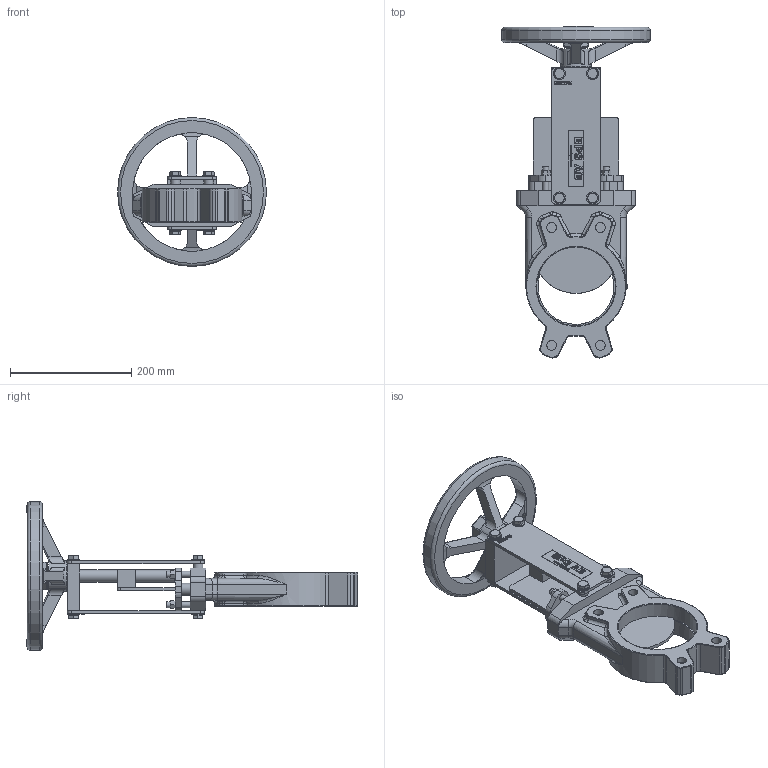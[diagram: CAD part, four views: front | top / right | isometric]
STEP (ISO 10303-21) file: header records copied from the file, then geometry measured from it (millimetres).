
FILE_DESCRIPTION((''),'2;1');
FILE_NAME('Z:\Kunder\BPS\BPS Produkter\BPS 2015\DN 125\Ritningar\BPS 2015125.stp','2012-12-28T10:56:32',('James'),(''),'Autodesk Inventor 2013','Autodesk Inventor 2013','');
FILE_SCHEMA(('AUTOMOTIVE_DESIGN { 1 2 10303 214 0 1 1 1 }'));
Length unit declared in the file: millimetre
Products named in the file (2): BPS 2015125 (SubstituteLevelofDetail1); BPS 2015125
Assembly tree (1 placements, depth 2):
  BPS 2015125 (SubstituteLevelofDetail1)
    BPS 2015125
Bounding box: 245 x 546.27 x 245 mm (x, y, z)
Volume: 2626834.5 mm3; surface area: 409677.3 mm2
Topology: 2 solids, 16 shells, 1259 faces, 3067 edges, 1930 vertices
Faces by surface type: plane 611, cylinder 252, bspline 232, torus 87, cone 57, sphere 20
Full cylindrical faces by diameter (mm): 8 x2, 10 x20, 10.5 x8, 14.63 x8, 16 x10, 20 x11, 50 x1, 125 x1, 130 x1, 195 x1, 245 x1
Entity records: 44676 total; most frequent: CARTESIAN_POINT 15454, ORIENTED_EDGE 5930, DIRECTION 5243, EDGE_CURVE 2965, VERTEX_POINT 1916, AXIS2_PLACEMENT_3D 1782, VECTOR 1679, LINE 1679
